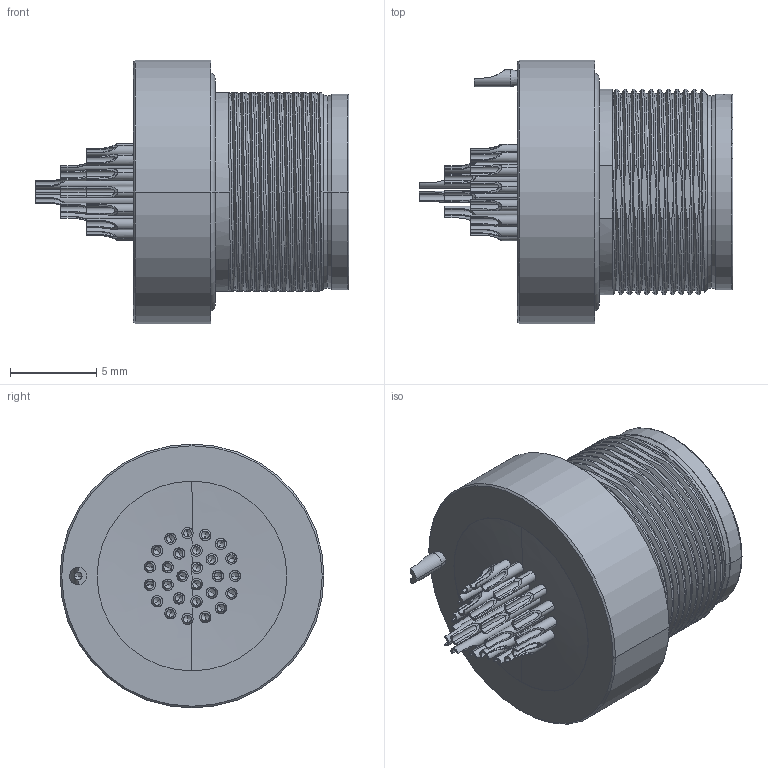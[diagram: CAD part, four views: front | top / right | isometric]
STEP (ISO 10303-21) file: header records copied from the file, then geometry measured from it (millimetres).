
FILE_DESCRIPTION((''),'2;1');
FILE_NAME('00058446-A','2020-10-30T11:14:42',('EUnterhaslberger'),(''),'CREO PARAMETRIC BY PTC INC, 2018300','CREO PARAMETRIC BY PTC INC, 2018300','');
FILE_SCHEMA(('AP242_MANAGED_MODEL_BASED_3D_ENGINEERING_MIM_LF { 1 0 10303 442 1 1 4 }'));
Length unit declared in the file: millimetre
Products named in the file (1): 00058446-A
Bounding box: 18.2 x 15.3 x 15.3 mm (x, y, z)
Volume: 1245 mm3; surface area: 1899.7 mm2
Topology: 2 solids, 3 shells, 771 faces, 2031 edges, 1306 vertices
Faces by surface type: cylinder 356, plane 246, cone 131, torus 23, bspline 15
Entity records: 39935 total; most frequent: CARTESIAN_POINT 15743, ORIENTED_EDGE 3946, DIRECTION 3808, EDGE_CURVE 1973, AXIS2_PLACEMENT_3D 1494, VERTEX_POINT 1306, EDGE_LOOP 887, VECTOR 820
